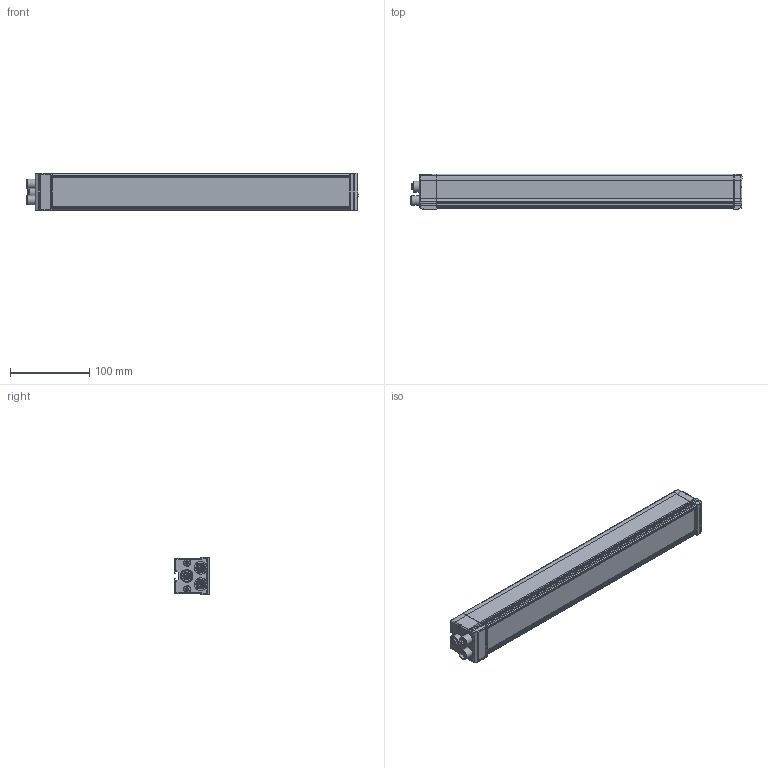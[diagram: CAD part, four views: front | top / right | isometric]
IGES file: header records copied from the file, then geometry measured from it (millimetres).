
Global section: file name: 153-01220_LB 375 xK-24--Axx-2L5; native system: Autodesk Inventor 2016; preprocessor: unknown; author: AGOUGEON; date: 20160425.121058; units: millimetre
Bounding box: 420.05 x 45 x 47.63 mm (x, y, z)
Volume: 615546.3 mm3; surface area: 167301.7 mm2
Topology: 1 solids, 2 shells, 1031 faces, 2714 edges, 1744 vertices
Faces by surface type: bspline 1031
